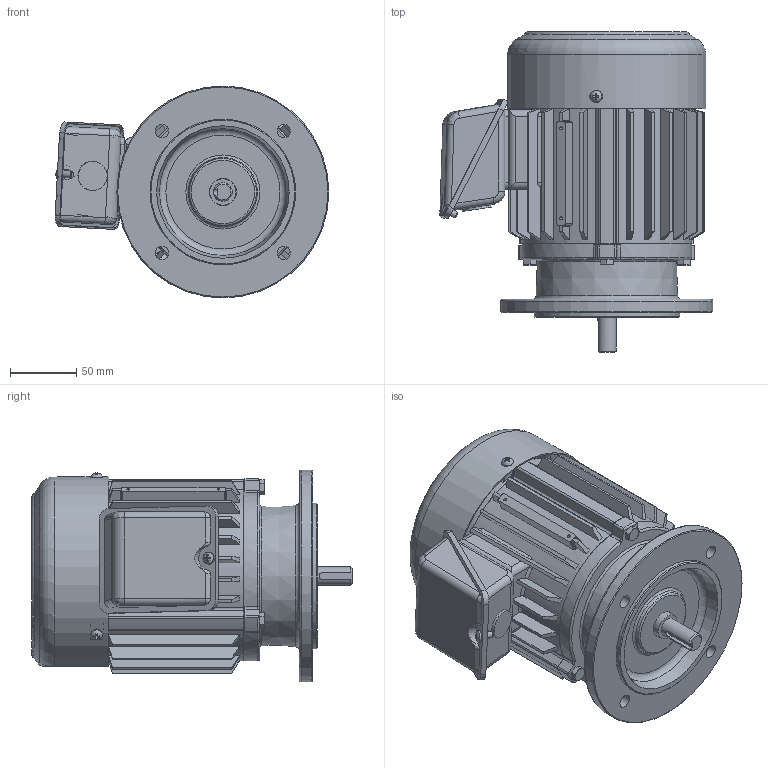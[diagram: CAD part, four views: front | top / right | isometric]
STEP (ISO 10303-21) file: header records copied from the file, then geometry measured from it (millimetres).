
FILE_DESCRIPTION(/* description */ ('Unknown'),/* implementation_level */ '2;1');
FILE_NAME(/* name */ '1-SMA-33824_외형도(120DIA)',/* time_stamp */ '2026-07-24T08:38:01+09:00',/* author */ ('Unknown'),/* organization */ ('Unknown'),/* preprocessor_version */ 'ST-DEVELOPER v16',/* originating_system */ 'DEX',/* authorisation */ $);
FILE_SCHEMA (('AUTOMOTIVE_DESIGN {1 0 10303 214 3 1 1}'));
Products named in the file (17): 1-SMA-33824_¿ÜÇüµµ(120DIðu+ô; 2-SMA-30835_FRAME(120DIA); 3-SMA-30836_擅粽塭鰍(120D; 4-SMA-30833_µÚºê¶óÄÏ(120D´¾|·Ï(; 5-SMA-30837_SHAFT(120DIA); 6-SMA-31241_FAN(120DIA~140DIA); 7-SMA-30281_FAN COVER(120DIA); 幫陝獐お M6x1x; 菅斬 褊濠 M5x0.8x; SMA33038,33039_攪嘐割 ; 8-SMA-33038_T-BOX(鼻)(120,140DIA); 9-SMA-33039_T-BOX(ж)(120~140DIA); T-BOX 憶っ(120~160DIA; T-BOX ÀÓ½Ã ÄÉÀÌºí±×·£µå(120~ë“œ(120~160DIA); 褊濠 菅斬 該葬 獐お M5x; 6204ZZ; 6202ZZ
Assembly tree (23 placements, depth 3):
  1-SMA-33824_¿ÜÇüµµ(120DIðu+ô
    2-SMA-30835_FRAME(120DIA)
    3-SMA-30836_擅粽塭鰍(120D
    4-SMA-30833_µÚºê¶óÄÏ(120D´¾|·Ï(
    5-SMA-30837_SHAFT(120DIA)
    6-SMA-31241_FAN(120DIA~140DIA)
    7-SMA-30281_FAN COVER(120DIA)
    幫陝獐お M6x1x  x6
    菅斬 褊濠 M5x0.8x  x3
    SMA33038,33039_攪嘐割 
      8-SMA-33038_T-BOX(鼻)(120,140DIA)
      9-SMA-33039_T-BOX(ж)(120~140DIA)
      T-BOX 憶っ(120~160DIA
      T-BOX ÀÓ½Ã ÄÉÀÌºí±×·£µå(120~ë“œ(120~160DIA)
      褊濠 菅斬 該葬 獐お M5x
    6204ZZ
    6202ZZ
Bounding box: 206.61 x 241.99 x 160 mm (x, y, z)
Volume: 891171.1 mm3; surface area: 474397.1 mm2
Topology: 45 solids, 45 shells, 1832 faces, 4601 edges, 2928 vertices
Faces by surface type: plane 814, cylinder 505, cone 290, torus 161, sphere 36, bspline 26
Full cylindrical faces by diameter (mm): 2.2 x2, 4.134 x3, 4.917 x12, 5 x7, 6 x17, 8 x6, 9 x1, 10 x4, 14 x1, 14.1 x1, 14.2 x1, 14.8 x1, 15 x2, 15.6 x1, 19.8 x1, 20 x2, 20.1 x1, 20.6 x1, 20.714 x2, 21.114 x2, 22 x2, 22.5 x1, 27.714 x2, 28.114 x2, 28.886 x2, 29 x2, 29.286 x2, 33 x2, 35 x2, 38.886 x2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
Entity records: 64730 total; most frequent: CARTESIAN_POINT 21928, DIRECTION 8229, ORIENTED_EDGE 7954, EDGE_CURVE 3977, AXIS2_PLACEMENT_3D 3202, VERTEX_POINT 2646, FACE_BOUND 2087, EDGE_LOOP 2063
